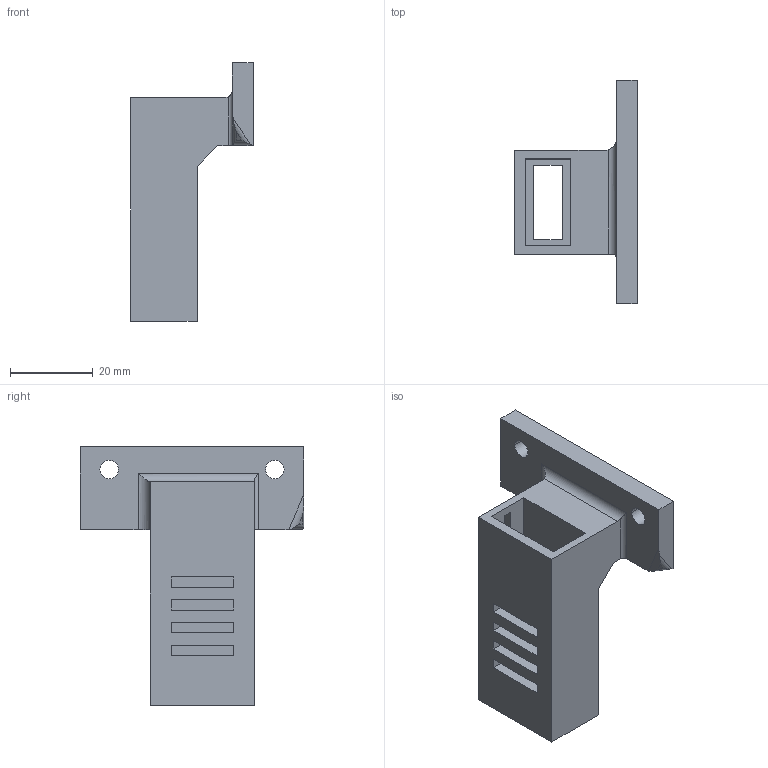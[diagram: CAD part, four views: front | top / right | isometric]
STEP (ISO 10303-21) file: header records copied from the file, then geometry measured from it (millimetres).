
FILE_DESCRIPTION (( 'STEP AP203' ), '1' );
FILE_NAME ('mount_b v2.STEP', '2024-07-13T16:27:57', ( '' ), ( '' ), 'SwSTEP 2.0', 'SolidWorks 2020', '' );
FILE_SCHEMA (( 'CONFIG_CONTROL_DESIGN' ));
Length unit declared in the file: millimetre
Products named in the file (1): mount_b v2
Bounding box: 29.57 x 54 x 62.46 mm (x, y, z)
Volume: 16596.7 mm3; surface area: 11548.9 mm2
Topology: 1 solids, 1 shells, 73 faces, 198 edges, 132 vertices
Faces by surface type: plane 63, cylinder 10
Entity records: 2391 total; most frequent: CARTESIAN_POINT 447, ORIENTED_EDGE 396, DIRECTION 349, EDGE_CURVE 198, LINE 177, VECTOR 177, VERTEX_POINT 132, EDGE_LOOP 94
